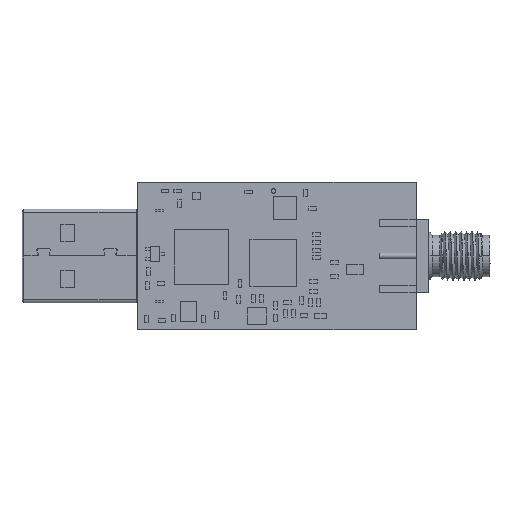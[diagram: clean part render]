
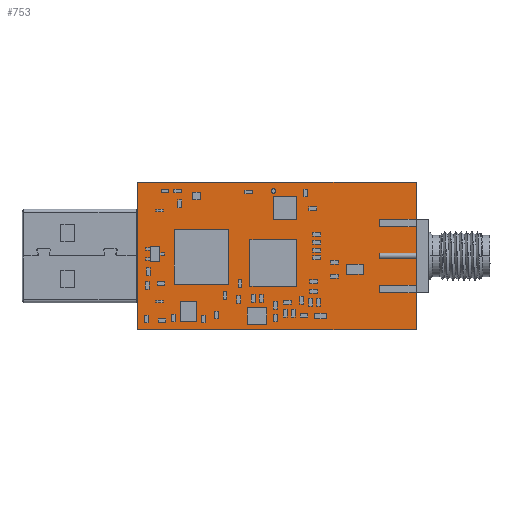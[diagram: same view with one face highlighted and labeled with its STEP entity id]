
A CAD part, top view. The second image highlights one B-rep face of the part: STEP entity #753.
In plain terms, the highlighted planar face has unit normal (0, 0, 1).
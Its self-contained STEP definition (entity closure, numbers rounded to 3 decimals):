
#439 = VERTEX_POINT('',#440);
#440 = CARTESIAN_POINT('',(0.,-9.5,1.601));
#447 = PLANE('',#448);
#448 = AXIS2_PLACEMENT_3D('',#449,#450,#451);
#449 = CARTESIAN_POINT('',(0.,-9.5,0.));
#450 = DIRECTION('',(0.,1.,0.));
#451 = DIRECTION('',(1.,0.,0.));
#459 = PLANE('',#460);
#460 = AXIS2_PLACEMENT_3D('',#461,#462,#463);
#461 = CARTESIAN_POINT('',(0.,9.5,0.));
#462 = DIRECTION('',(1.,0.,0.));
#463 = DIRECTION('',(0.,-1.,0.));
#471 = EDGE_CURVE('',#439,#472,#474,.T.);
#472 = VERTEX_POINT('',#473);
#473 = CARTESIAN_POINT('',(35.941,-9.5,1.601));
#474 = SURFACE_CURVE('',#475,(#479,#486),.PCURVE_S1.);
#475 = LINE('',#476,#477);
#476 = CARTESIAN_POINT('',(0.,-9.5,1.601));
#477 = VECTOR('',#478,1.);
#478 = DIRECTION('',(1.,0.,0.));
#479 = PCURVE('',#447,#480);
#480 = DEFINITIONAL_REPRESENTATION('',(#481),#485);
#481 = LINE('',#482,#483);
#482 = CARTESIAN_POINT('',(0.,-1.601));
#483 = VECTOR('',#484,1.);
#484 = DIRECTION('',(1.,0.));
#485 = ( GEOMETRIC_REPRESENTATION_CONTEXT(2) 
PARAMETRIC_REPRESENTATION_CONTEXT() REPRESENTATION_CONTEXT('2D SPACE',''
  ) );
#486 = PCURVE('',#487,#492);
#487 = PLANE('',#488);
#488 = AXIS2_PLACEMENT_3D('',#489,#490,#491);
#489 = CARTESIAN_POINT('',(0.,-9.5,1.601));
#490 = DIRECTION('',(0.,0.,-1.));
#491 = DIRECTION('',(-1.,0.,0.));
#492 = DEFINITIONAL_REPRESENTATION('',(#493),#497);
#493 = LINE('',#494,#495);
#494 = CARTESIAN_POINT('',(0.,0.));
#495 = VECTOR('',#496,1.);
#496 = DIRECTION('',(-1.,0.));
#497 = ( GEOMETRIC_REPRESENTATION_CONTEXT(2) 
PARAMETRIC_REPRESENTATION_CONTEXT() REPRESENTATION_CONTEXT('2D SPACE',''
  ) );
#515 = PLANE('',#516);
#516 = AXIS2_PLACEMENT_3D('',#517,#518,#519);
#517 = CARTESIAN_POINT('',(35.941,-9.5,0.));
#518 = DIRECTION('',(-1.,0.,0.));
#519 = DIRECTION('',(0.,1.,0.));
#557 = EDGE_CURVE('',#472,#558,#560,.T.);
#558 = VERTEX_POINT('',#559);
#559 = CARTESIAN_POINT('',(35.941,9.5,1.601));
#560 = SURFACE_CURVE('',#561,(#565,#572),.PCURVE_S1.);
#561 = LINE('',#562,#563);
#562 = CARTESIAN_POINT('',(35.941,-9.5,1.601));
#563 = VECTOR('',#564,1.);
#564 = DIRECTION('',(0.,1.,0.));
#565 = PCURVE('',#515,#566);
#566 = DEFINITIONAL_REPRESENTATION('',(#567),#571);
#567 = LINE('',#568,#569);
#568 = CARTESIAN_POINT('',(0.,-1.601));
#569 = VECTOR('',#570,1.);
#570 = DIRECTION('',(1.,0.));
#571 = ( GEOMETRIC_REPRESENTATION_CONTEXT(2) 
PARAMETRIC_REPRESENTATION_CONTEXT() REPRESENTATION_CONTEXT('2D SPACE',''
  ) );
#572 = PCURVE('',#487,#573);
#573 = DEFINITIONAL_REPRESENTATION('',(#574),#578);
#574 = LINE('',#575,#576);
#575 = CARTESIAN_POINT('',(-35.941,0.));
#576 = VECTOR('',#577,1.);
#577 = DIRECTION('',(0.,1.));
#578 = ( GEOMETRIC_REPRESENTATION_CONTEXT(2) 
PARAMETRIC_REPRESENTATION_CONTEXT() REPRESENTATION_CONTEXT('2D SPACE',''
  ) );
#596 = PLANE('',#597);
#597 = AXIS2_PLACEMENT_3D('',#598,#599,#600);
#598 = CARTESIAN_POINT('',(35.941,9.5,0.));
#599 = DIRECTION('',(0.,-1.,0.));
#600 = DIRECTION('',(-1.,0.,0.));
#633 = EDGE_CURVE('',#558,#634,#636,.T.);
#634 = VERTEX_POINT('',#635);
#635 = CARTESIAN_POINT('',(0.,9.5,1.601));
#636 = SURFACE_CURVE('',#637,(#641,#648),.PCURVE_S1.);
#637 = LINE('',#638,#639);
#638 = CARTESIAN_POINT('',(35.941,9.5,1.601));
#639 = VECTOR('',#640,1.);
#640 = DIRECTION('',(-1.,0.,0.));
#641 = PCURVE('',#596,#642);
#642 = DEFINITIONAL_REPRESENTATION('',(#643),#647);
#643 = LINE('',#644,#645);
#644 = CARTESIAN_POINT('',(0.,-1.601));
#645 = VECTOR('',#646,1.);
#646 = DIRECTION('',(1.,0.));
#647 = ( GEOMETRIC_REPRESENTATION_CONTEXT(2) 
PARAMETRIC_REPRESENTATION_CONTEXT() REPRESENTATION_CONTEXT('2D SPACE',''
  ) );
#648 = PCURVE('',#487,#649);
#649 = DEFINITIONAL_REPRESENTATION('',(#650),#654);
#650 = LINE('',#651,#652);
#651 = CARTESIAN_POINT('',(-35.941,19.));
#652 = VECTOR('',#653,1.);
#653 = DIRECTION('',(1.,0.));
#654 = ( GEOMETRIC_REPRESENTATION_CONTEXT(2) 
PARAMETRIC_REPRESENTATION_CONTEXT() REPRESENTATION_CONTEXT('2D SPACE',''
  ) );
#704 = EDGE_CURVE('',#634,#439,#705,.T.);
#705 = SURFACE_CURVE('',#706,(#710,#717),.PCURVE_S1.);
#706 = LINE('',#707,#708);
#707 = CARTESIAN_POINT('',(0.,9.5,1.601));
#708 = VECTOR('',#709,1.);
#709 = DIRECTION('',(0.,-1.,0.));
#710 = PCURVE('',#459,#711);
#711 = DEFINITIONAL_REPRESENTATION('',(#712),#716);
#712 = LINE('',#713,#714);
#713 = CARTESIAN_POINT('',(0.,-1.601));
#714 = VECTOR('',#715,1.);
#715 = DIRECTION('',(1.,0.));
#716 = ( GEOMETRIC_REPRESENTATION_CONTEXT(2) 
PARAMETRIC_REPRESENTATION_CONTEXT() REPRESENTATION_CONTEXT('2D SPACE',''
  ) );
#717 = PCURVE('',#487,#718);
#718 = DEFINITIONAL_REPRESENTATION('',(#719),#723);
#719 = LINE('',#720,#721);
#720 = CARTESIAN_POINT('',(0.,19.));
#721 = VECTOR('',#722,1.);
#722 = DIRECTION('',(0.,-1.));
#723 = ( GEOMETRIC_REPRESENTATION_CONTEXT(2) 
PARAMETRIC_REPRESENTATION_CONTEXT() REPRESENTATION_CONTEXT('2D SPACE',''
  ) );
#753 = ADVANCED_FACE('',(#754),#487,.F.);
#754 = FACE_BOUND('',#755,.T.);
#755 = EDGE_LOOP('',(#756,#757,#758,#759));
#756 = ORIENTED_EDGE('',*,*,#471,.T.);
#757 = ORIENTED_EDGE('',*,*,#557,.T.);
#758 = ORIENTED_EDGE('',*,*,#633,.T.);
#759 = ORIENTED_EDGE('',*,*,#704,.T.);
